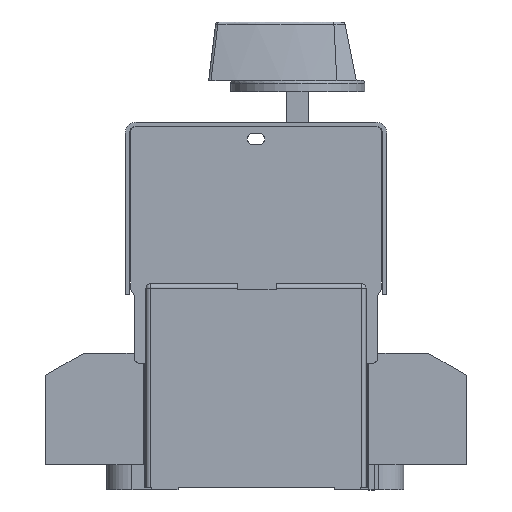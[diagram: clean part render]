
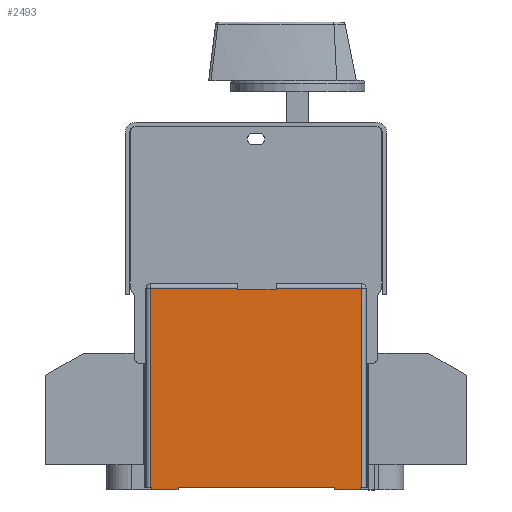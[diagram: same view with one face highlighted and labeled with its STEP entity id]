
A CAD part, left-side view. The second image highlights one B-rep face of the part: STEP entity #2493.
In plain terms, the highlighted planar face has unit normal (-1, 0, 0).
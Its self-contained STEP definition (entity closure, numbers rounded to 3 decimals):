
#1402=FACE_OUTER_BOUND('',#4693,.T.);
#2493=ADVANCED_FACE('',(#1402),#3651,.F.);
#3651=PLANE('',#23357);
#4693=EDGE_LOOP('',(#6615,#6616,#6617,#6618,#6619,#6620,#6621,#6622,#6623,
#6624,#6625,#6626,#6627,#6628,#6629,#6630));
#6615=ORIENTED_EDGE('',*,*,#15279,.F.);
#6616=ORIENTED_EDGE('',*,*,#15280,.T.);
#6617=ORIENTED_EDGE('',*,*,#15281,.T.);
#6618=ORIENTED_EDGE('',*,*,#15052,.F.);
#6619=ORIENTED_EDGE('',*,*,#15282,.T.);
#6620=ORIENTED_EDGE('',*,*,#15283,.T.);
#6621=ORIENTED_EDGE('',*,*,#15277,.T.);
#6622=ORIENTED_EDGE('',*,*,#15163,.T.);
#6623=ORIENTED_EDGE('',*,*,#14915,.F.);
#6624=ORIENTED_EDGE('',*,*,#15284,.F.);
#6625=ORIENTED_EDGE('',*,*,#15285,.T.);
#6626=ORIENTED_EDGE('',*,*,#15063,.T.);
#6627=ORIENTED_EDGE('',*,*,#15286,.F.);
#6628=ORIENTED_EDGE('',*,*,#15287,.F.);
#6629=ORIENTED_EDGE('',*,*,#14931,.T.);
#6630=ORIENTED_EDGE('',*,*,#15175,.T.);
#12736=VERTEX_POINT('',#31475);
#12737=VERTEX_POINT('',#31477);
#12750=VERTEX_POINT('',#31508);
#12751=VERTEX_POINT('',#31510);
#12850=VERTEX_POINT('',#31758);
#12852=VERTEX_POINT('',#31762);
#12863=VERTEX_POINT('',#31786);
#12864=VERTEX_POINT('',#31788);
#12947=VERTEX_POINT('',#31987);
#12955=VERTEX_POINT('',#32009);
#13018=VERTEX_POINT('',#32207);
#13019=VERTEX_POINT('',#32211);
#13020=VERTEX_POINT('',#32213);
#13021=VERTEX_POINT('',#32216);
#13022=VERTEX_POINT('',#32219);
#13023=VERTEX_POINT('',#32222);
#14915=EDGE_CURVE('',#12736,#12737,#18232,.T.);
#14931=EDGE_CURVE('',#12751,#12750,#18247,.T.);
#15052=EDGE_CURVE('',#12852,#12850,#18355,.T.);
#15063=EDGE_CURVE('',#12864,#12863,#18366,.T.);
#15163=EDGE_CURVE('',#12947,#12737,#18445,.T.);
#15175=EDGE_CURVE('',#12750,#12955,#18453,.T.);
#15277=EDGE_CURVE('',#13018,#12947,#18541,.T.);
#15279=EDGE_CURVE('',#13019,#12955,#18542,.T.);
#15280=EDGE_CURVE('',#13019,#13020,#18543,.T.);
#15281=EDGE_CURVE('',#13020,#12850,#18544,.T.);
#15282=EDGE_CURVE('',#12852,#13021,#18545,.T.);
#15283=EDGE_CURVE('',#13021,#13018,#18546,.T.);
#15284=EDGE_CURVE('',#13022,#12736,#18547,.T.);
#15285=EDGE_CURVE('',#13022,#12864,#18548,.T.);
#15286=EDGE_CURVE('',#13023,#12863,#18549,.T.);
#15287=EDGE_CURVE('',#12751,#13023,#18550,.T.);
#18232=LINE('',#31476,#20744);
#18247=LINE('',#31509,#20759);
#18355=LINE('',#31763,#20867);
#18366=LINE('',#31787,#20878);
#18445=LINE('',#31986,#20957);
#18453=LINE('',#32010,#20965);
#18541=LINE('',#32206,#21053);
#18542=LINE('',#32210,#21054);
#18543=LINE('',#32212,#21055);
#18544=LINE('',#32214,#21056);
#18545=LINE('',#32215,#21057);
#18546=LINE('',#32217,#21058);
#18547=LINE('',#32218,#21059);
#18548=LINE('',#32220,#21060);
#18549=LINE('',#32221,#21061);
#18550=LINE('',#32223,#21062);
#20744=VECTOR('',#25205,1.);
#20759=VECTOR('',#25228,1.);
#20867=VECTOR('',#25408,1.);
#20878=VECTOR('',#25423,1.);
#20957=VECTOR('',#25576,1.);
#20965=VECTOR('',#25598,1.);
#21053=VECTOR('',#25778,1.);
#21054=VECTOR('',#25783,1.);
#21055=VECTOR('',#25784,1.);
#21056=VECTOR('',#25785,1.);
#21057=VECTOR('',#25786,1.);
#21058=VECTOR('',#25787,1.);
#21059=VECTOR('',#25788,1.);
#21060=VECTOR('',#25789,1.);
#21061=VECTOR('',#25790,1.);
#21062=VECTOR('',#25791,1.);
#23357=AXIS2_PLACEMENT_3D('',#32224,#25792,#25793);
#25205=DIRECTION('',(0.,0.,1.));
#25228=DIRECTION('',(0.,0.,1.));
#25408=DIRECTION('',(0.,-1.,0.));
#25423=DIRECTION('',(0.,-1.,0.));
#25576=DIRECTION('',(0.,-1.,0.));
#25598=DIRECTION('',(0.,-1.,0.));
#25778=DIRECTION('',(0.,0.,-1.));
#25783=DIRECTION('',(0.,0.,-1.));
#25784=DIRECTION('',(0.,1.,0.));
#25785=DIRECTION('',(0.,0.,-1.));
#25786=DIRECTION('',(0.,0.,1.));
#25787=DIRECTION('',(0.,1.,0.));
#25788=DIRECTION('',(0.,1.,0.));
#25789=DIRECTION('',(0.,0.,1.));
#25790=DIRECTION('',(0.,0.,1.));
#25791=DIRECTION('',(0.,1.,0.));
#25792=DIRECTION('',(1.,0.,0.));
#25793=DIRECTION('',(0.,0.,-1.));
#31475=CARTESIAN_POINT('',(-69.,12.765,-4.9));
#31476=CARTESIAN_POINT('',(-69.,12.765,-5.9));
#31477=CARTESIAN_POINT('',(-69.,12.765,-3.9));
#31508=CARTESIAN_POINT('',(-69.,-62.235,-3.9));
#31509=CARTESIAN_POINT('',(-69.,-62.235,-5.9));
#31510=CARTESIAN_POINT('',(-69.,-62.235,-4.9));
#31758=CARTESIAN_POINT('',(-69.,-31.985,67.));
#31762=CARTESIAN_POINT('',(-69.,-17.985,67.));
#31763=CARTESIAN_POINT('',(-69.,12.765,67.));
#31786=CARTESIAN_POINT('',(-69.,-52.735,-3.9));
#31787=CARTESIAN_POINT('',(-69.,-62.235,-3.9));
#31788=CARTESIAN_POINT('',(-69.,3.265,-3.9));
#31986=CARTESIAN_POINT('',(-69.,-62.235,-3.9));
#31987=CARTESIAN_POINT('',(-69.,13.265,-3.9));
#32009=CARTESIAN_POINT('',(-69.,-62.735,-3.9));
#32010=CARTESIAN_POINT('',(-69.,-62.235,-3.9));
#32206=CARTESIAN_POINT('',(-69.,13.265,69.1));
#32207=CARTESIAN_POINT('',(-69.,13.265,67.6));
#32210=CARTESIAN_POINT('',(-69.,-62.735,69.1));
#32211=CARTESIAN_POINT('',(-69.,-62.735,67.6));
#32212=CARTESIAN_POINT('',(-69.,13.265,67.6));
#32213=CARTESIAN_POINT('',(-69.,-31.985,67.6));
#32214=CARTESIAN_POINT('',(-69.,-31.985,69.1));
#32215=CARTESIAN_POINT('',(-69.,-17.985,69.1));
#32216=CARTESIAN_POINT('',(-69.,-17.985,67.6));
#32217=CARTESIAN_POINT('',(-69.,13.265,67.6));
#32218=CARTESIAN_POINT('',(-69.,3.265,-4.9));
#32219=CARTESIAN_POINT('',(-69.,3.265,-4.9));
#32220=CARTESIAN_POINT('',(-69.,3.265,-5.9));
#32221=CARTESIAN_POINT('',(-69.,-52.735,-5.9));
#32222=CARTESIAN_POINT('',(-69.,-52.735,-4.9));
#32223=CARTESIAN_POINT('',(-69.,-62.235,-4.9));
#32224=CARTESIAN_POINT('',(-69.,-62.235,69.1));
